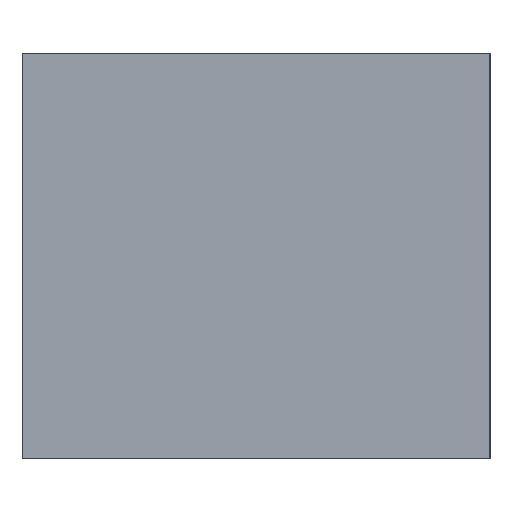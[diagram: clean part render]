
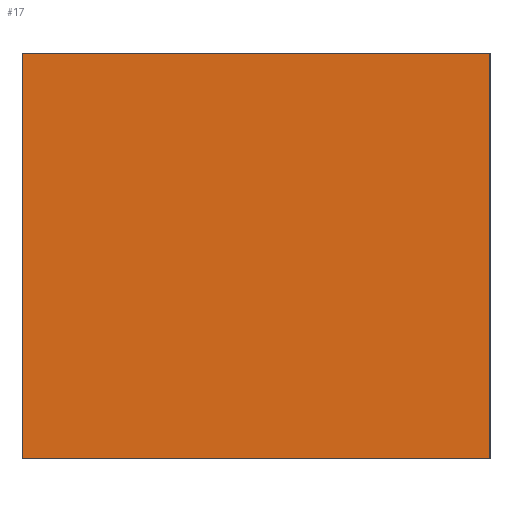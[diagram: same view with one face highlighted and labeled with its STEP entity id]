
A CAD part, left-side view. The second image highlights one B-rep face of the part: STEP entity #17.
In plain terms, the highlighted planar face has unit normal (-1, 0, 0).
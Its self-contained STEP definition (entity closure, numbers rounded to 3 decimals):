
#17 = ADVANCED_FACE('',(#18),#32,.F.);
#18 = FACE_BOUND('',#19,.F.);
#19 = EDGE_LOOP('',(#20,#55,#83,#111));
#20 = ORIENTED_EDGE('',*,*,#21,.F.);
#21 = EDGE_CURVE('',#22,#24,#26,.T.);
#22 = VERTEX_POINT('',#23);
#23 = CARTESIAN_POINT('',(-900.,0.,-100.));
#24 = VERTEX_POINT('',#25);
#25 = CARTESIAN_POINT('',(-900.,0.,30.));
#26 = SURFACE_CURVE('',#27,(#31,#43),.PCURVE_S1.);
#27 = LINE('',#28,#29);
#28 = CARTESIAN_POINT('',(-900.,0.,-100.));
#29 = VECTOR('',#30,1.);
#30 = DIRECTION('',(0.,0.,1.));
#31 = PCURVE('',#32,#37);
#32 = PLANE('',#33);
#33 = AXIS2_PLACEMENT_3D('',#34,#35,#36);
#34 = CARTESIAN_POINT('',(-900.,0.,-100.));
#35 = DIRECTION('',(1.,0.,0.));
#36 = DIRECTION('',(0.,0.,1.));
#37 = DEFINITIONAL_REPRESENTATION('',(#38),#42);
#38 = LINE('',#39,#40);
#39 = CARTESIAN_POINT('',(0.,0.));
#40 = VECTOR('',#41,1.);
#41 = DIRECTION('',(1.,0.));
#42 = ( GEOMETRIC_REPRESENTATION_CONTEXT(2) 
PARAMETRIC_REPRESENTATION_CONTEXT() REPRESENTATION_CONTEXT('2D SPACE',''
  ) );
#43 = PCURVE('',#44,#49);
#44 = PLANE('',#45);
#45 = AXIS2_PLACEMENT_3D('',#46,#47,#48);
#46 = CARTESIAN_POINT('',(-900.,0.,-100.));
#47 = DIRECTION('',(0.,1.,0.));
#48 = DIRECTION('',(0.,0.,1.));
#49 = DEFINITIONAL_REPRESENTATION('',(#50),#54);
#50 = LINE('',#51,#52);
#51 = CARTESIAN_POINT('',(0.,0.));
#52 = VECTOR('',#53,1.);
#53 = DIRECTION('',(1.,0.));
#54 = ( GEOMETRIC_REPRESENTATION_CONTEXT(2) 
PARAMETRIC_REPRESENTATION_CONTEXT() REPRESENTATION_CONTEXT('2D SPACE',''
  ) );
#55 = ORIENTED_EDGE('',*,*,#56,.T.);
#56 = EDGE_CURVE('',#22,#57,#59,.T.);
#57 = VERTEX_POINT('',#58);
#58 = CARTESIAN_POINT('',(-900.,150.,-100.));
#59 = SURFACE_CURVE('',#60,(#64,#71),.PCURVE_S1.);
#60 = LINE('',#61,#62);
#61 = CARTESIAN_POINT('',(-900.,0.,-100.));
#62 = VECTOR('',#63,1.);
#63 = DIRECTION('',(0.,1.,0.));
#64 = PCURVE('',#32,#65);
#65 = DEFINITIONAL_REPRESENTATION('',(#66),#70);
#66 = LINE('',#67,#68);
#67 = CARTESIAN_POINT('',(0.,0.));
#68 = VECTOR('',#69,1.);
#69 = DIRECTION('',(0.,-1.));
#70 = ( GEOMETRIC_REPRESENTATION_CONTEXT(2) 
PARAMETRIC_REPRESENTATION_CONTEXT() REPRESENTATION_CONTEXT('2D SPACE',''
  ) );
#71 = PCURVE('',#72,#77);
#72 = PLANE('',#73);
#73 = AXIS2_PLACEMENT_3D('',#74,#75,#76);
#74 = CARTESIAN_POINT('',(-900.,0.,-100.));
#75 = DIRECTION('',(0.,0.,1.));
#76 = DIRECTION('',(1.,0.,0.));
#77 = DEFINITIONAL_REPRESENTATION('',(#78),#82);
#78 = LINE('',#79,#80);
#79 = CARTESIAN_POINT('',(0.,0.));
#80 = VECTOR('',#81,1.);
#81 = DIRECTION('',(0.,1.));
#82 = ( GEOMETRIC_REPRESENTATION_CONTEXT(2) 
PARAMETRIC_REPRESENTATION_CONTEXT() REPRESENTATION_CONTEXT('2D SPACE',''
  ) );
#83 = ORIENTED_EDGE('',*,*,#84,.T.);
#84 = EDGE_CURVE('',#57,#85,#87,.T.);
#85 = VERTEX_POINT('',#86);
#86 = CARTESIAN_POINT('',(-900.,150.,30.));
#87 = SURFACE_CURVE('',#88,(#92,#99),.PCURVE_S1.);
#88 = LINE('',#89,#90);
#89 = CARTESIAN_POINT('',(-900.,150.,-100.));
#90 = VECTOR('',#91,1.);
#91 = DIRECTION('',(0.,0.,1.));
#92 = PCURVE('',#32,#93);
#93 = DEFINITIONAL_REPRESENTATION('',(#94),#98);
#94 = LINE('',#95,#96);
#95 = CARTESIAN_POINT('',(0.,-150.));
#96 = VECTOR('',#97,1.);
#97 = DIRECTION('',(1.,0.));
#98 = ( GEOMETRIC_REPRESENTATION_CONTEXT(2) 
PARAMETRIC_REPRESENTATION_CONTEXT() REPRESENTATION_CONTEXT('2D SPACE',''
  ) );
#99 = PCURVE('',#100,#105);
#100 = PLANE('',#101);
#101 = AXIS2_PLACEMENT_3D('',#102,#103,#104);
#102 = CARTESIAN_POINT('',(-900.,150.,-100.));
#103 = DIRECTION('',(0.,1.,0.));
#104 = DIRECTION('',(0.,0.,1.));
#105 = DEFINITIONAL_REPRESENTATION('',(#106),#110);
#106 = LINE('',#107,#108);
#107 = CARTESIAN_POINT('',(0.,0.));
#108 = VECTOR('',#109,1.);
#109 = DIRECTION('',(1.,0.));
#110 = ( GEOMETRIC_REPRESENTATION_CONTEXT(2) 
PARAMETRIC_REPRESENTATION_CONTEXT() REPRESENTATION_CONTEXT('2D SPACE',''
  ) );
#111 = ORIENTED_EDGE('',*,*,#112,.F.);
#112 = EDGE_CURVE('',#24,#85,#113,.T.);
#113 = SURFACE_CURVE('',#114,(#118,#125),.PCURVE_S1.);
#114 = LINE('',#115,#116);
#115 = CARTESIAN_POINT('',(-900.,0.,30.));
#116 = VECTOR('',#117,1.);
#117 = DIRECTION('',(0.,1.,0.));
#118 = PCURVE('',#32,#119);
#119 = DEFINITIONAL_REPRESENTATION('',(#120),#124);
#120 = LINE('',#121,#122);
#121 = CARTESIAN_POINT('',(130.,0.));
#122 = VECTOR('',#123,1.);
#123 = DIRECTION('',(0.,-1.));
#124 = ( GEOMETRIC_REPRESENTATION_CONTEXT(2) 
PARAMETRIC_REPRESENTATION_CONTEXT() REPRESENTATION_CONTEXT('2D SPACE',''
  ) );
#125 = PCURVE('',#126,#131);
#126 = PLANE('',#127);
#127 = AXIS2_PLACEMENT_3D('',#128,#129,#130);
#128 = CARTESIAN_POINT('',(-900.,0.,30.));
#129 = DIRECTION('',(0.,0.,1.));
#130 = DIRECTION('',(1.,0.,0.));
#131 = DEFINITIONAL_REPRESENTATION('',(#132),#136);
#132 = LINE('',#133,#134);
#133 = CARTESIAN_POINT('',(0.,0.));
#134 = VECTOR('',#135,1.);
#135 = DIRECTION('',(0.,1.));
#136 = ( GEOMETRIC_REPRESENTATION_CONTEXT(2) 
PARAMETRIC_REPRESENTATION_CONTEXT() REPRESENTATION_CONTEXT('2D SPACE',''
  ) );
